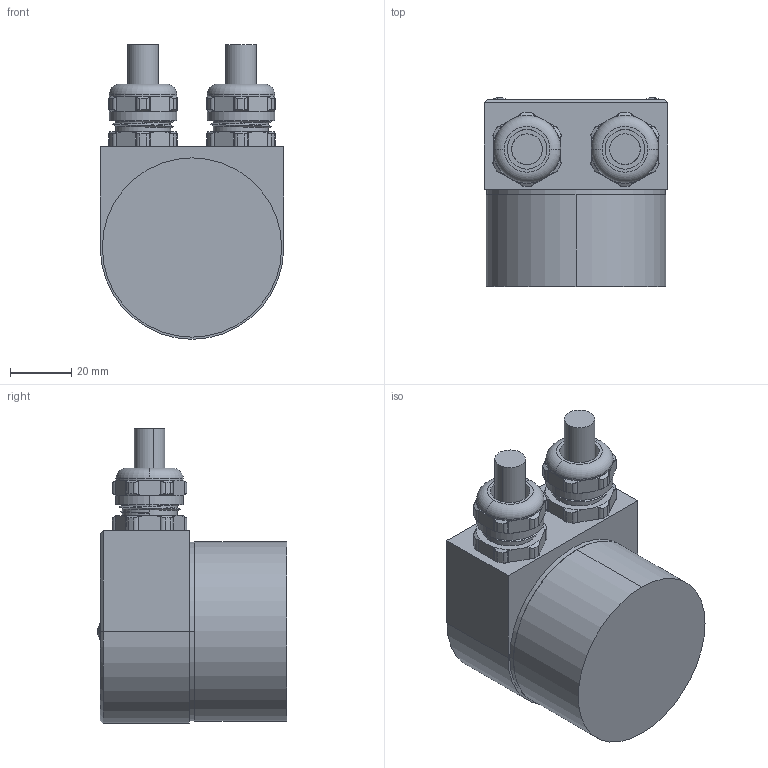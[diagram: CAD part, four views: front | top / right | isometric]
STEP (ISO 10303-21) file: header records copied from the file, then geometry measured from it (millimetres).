
FILE_DESCRIPTION (( 'STEP AP203' ), '1' );
FILE_NAME ('Drawing-OC-5-TC-320-SZM-HCCNNN-Y-H2M-N.STEP', '2013-10-08T08:22:10', ( 'Admin' ), ( 'Microsoft' ), 'SwSTEP 2.0', 'SolidWorks 2006104', '' );
FILE_SCHEMA (( 'CONFIG_CONTROL_DESIGN' ));
Products named in the file (1): Drawing-OC-5-TC-320-SZM-HCCNNN-Y-H2M-N
Bounding box: 60 x 61.8 x 96.27 mm (x, y, z)
Volume: 85930 mm3; surface area: 69394.2 mm2
Topology: 33 solids, 33 shells, 1828 faces, 4627 edges, 2980 vertices
Faces by surface type: plane 743, cylinder 575, bspline 226, cone 185, torus 99
Entity records: 76688 total; most frequent: CARTESIAN_POINT 33705, ORIENTED_EDGE 9234, DIRECTION 8352, EDGE_CURVE 4617, VERTEX_POINT 2980, AXIS2_PLACEMENT_3D 2952, VECTOR 2448, LINE 2448
